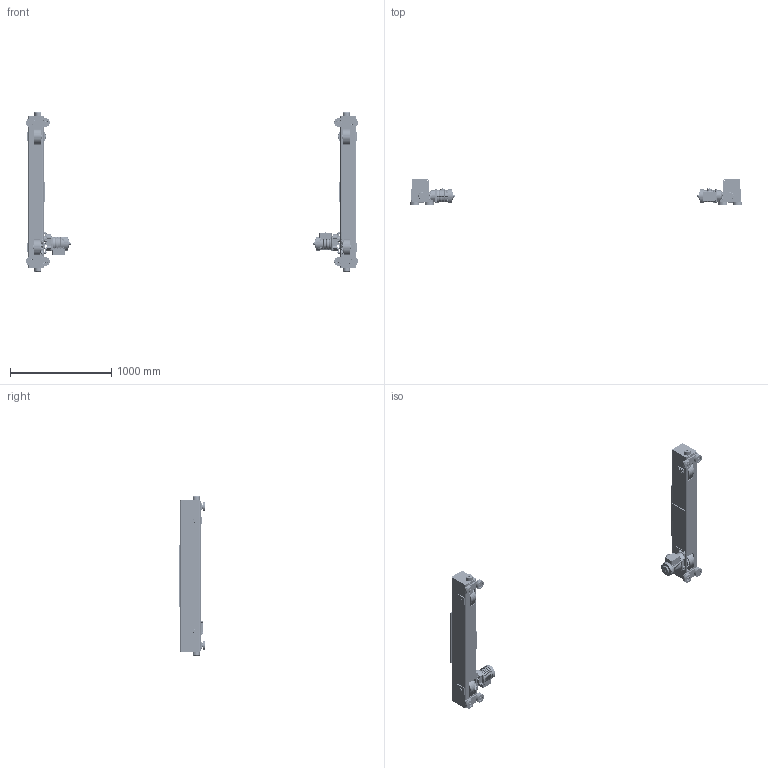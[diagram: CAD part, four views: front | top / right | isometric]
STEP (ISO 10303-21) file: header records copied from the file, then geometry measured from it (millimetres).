
FILE_DESCRIPTION (( 'STEP AP214' ), '1' );
FILE_NAME ('TML-3-0535.STEP', '2026-08-12T19:42:02', ( '' ), ( '' ), 'SwSTEP 2.0', 'SolidWorks 2026', '' );
FILE_SCHEMA (( 'AUTOMOTIVE_DESIGN' ));
Length unit declared in the file: inch
Products named in the file (72): 9047125_B27.7M - 3AM1-23; 6240820; T7G117030; G1JE025S9603; 9012709_Rectangular section spring washer BS 4464 - 16 (Type B); 9012711_9012711; 6240817X_6240817B; G1JE025S9609; 9093327_9093327; 6240819; 6240301; 9012514_9012514; 6240401; G1JE025S9303; N6QO310E9108_N6QO3101108 DOMESTIC; J1WS011-10060_GB_FASTENER_WASHER_SW 6; N6Q07201102; 6240601_0535 - 25# RAIL; 9091254_9091254; G1JE025S9301_Correct Teeth; N6QO7201101; MS555010_MS555010; G1JE025S9604; 9047252_9047252; T800-600-004_58.125; N6QO720E91013; 6240818; 6240805X_6240805B; 9091250_9091250; G1JM025L_ROTATED 180 DEGREES; G1JE025S9610; 9012707_9012707; G1JE025S9310; 62588; 6232404; 9000605; G1JE025S9401; 6240812; 9093330_9093330; N6QO720E91341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
Assembly tree (255 placements, depth 4):
  TML-3-0535
    6240501_0535 - 25# RAIL
      6240301
        T800-600-004_58.125
        6240820
        6240818
        6240819
        6240819
        6240819
      6240812  x2
      5204612
      T7G117030
      6240808
      6240809
      6240810
      6240817X_6240817B  x2
        6240805X_6240805B
        6232305
    6240601_0535 - 25# RAIL
      6240401
        T800-600-004_58.125
        6240820
        6240818
        6240819
        6240819
        6240819
      6240812  x2
      5204612
      T7G117030
      6240808
      6240809
      6240810
      6240817X_6240817B  x2
        6240805X_6240805B
        6232305
    N6QO3101108_N6QO3101108  x8
      N6QO310E9108_N6QO3101108 DOMESTIC
      9047252_9047252
      9000605
    6232404  x8
    9047125_B27.7M - 3AM1-23  x8
    N6QL210207  x4
    9012514_9012514  x4
    9012711_9012711  x20
    9093101_9093101  x4
    6240816  x4
    6240825  x4
    9093327_9093327  x8
    N6Q07201102  x2
      N6Q0720E9102
      9000707
    N6QO7201101
      N6QO720E91311
      N6QO720E91013
      J1WS011-10060_GB_FASTENER_WASHER_SW 6  x8
      J1BE1-0602020_AS 1420 - M6 x 20-S  x8
      N6QO720E91341
    N6QO7201101
      N6QO720E91311
      N6QO720E91013
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Bounding box: 3281.85 x 261.94 x 1573.42 mm (x, y, z)
Volume: 30637412.3 mm3; surface area: 7517910.8 mm2
Topology: 260 solids, 316 shells, 18222 faces, 45880 edges, 28884 vertices
Faces by surface type: plane 8534, cylinder 4404, bspline 2106, cone 2080, torus 912, sphere 186
Entity records: 206564 total; most frequent: CARTESIAN_POINT 88370, ORIENTED_EDGE 24342, DIRECTION 22041, EDGE_CURVE 12175, AXIS2_PLACEMENT_3D 8322, VERTEX_POINT 7755, VECTOR 5397, LINE 5397
